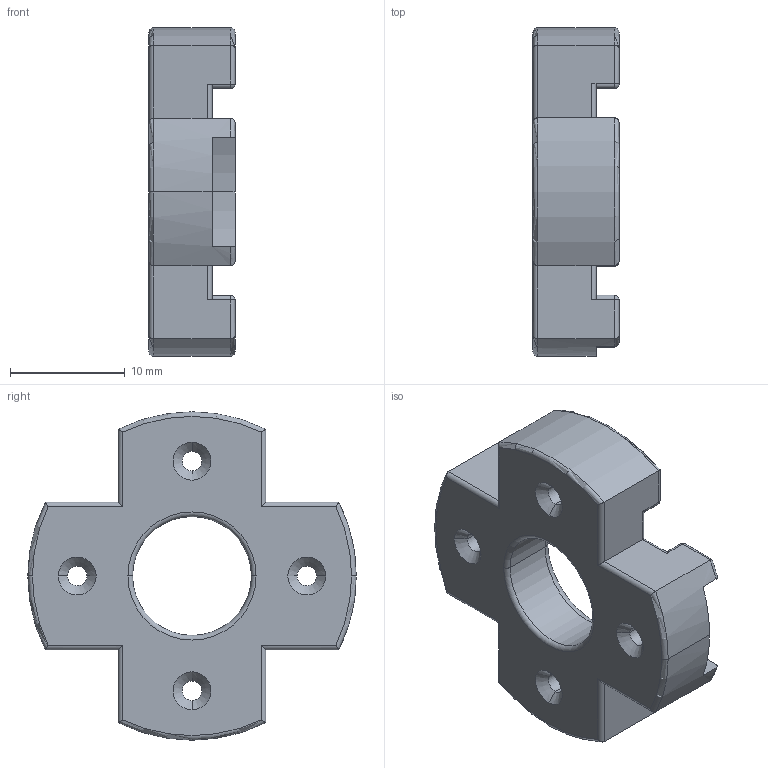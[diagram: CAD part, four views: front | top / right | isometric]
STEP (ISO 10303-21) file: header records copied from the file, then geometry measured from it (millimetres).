
FILE_DESCRIPTION(/* description */ ('AP-214'),/* implementation_level */ '2;1');
FILE_NAME(/* name */ 'center-gamepad.stp',/* time_stamp */ '2025-10-16T17:42:22+01:00',/* author */ (''),/* organization */ (''),/* preprocessor_version */ '0',/* originating_system */ '',/* authorisation */ '');
FILE_SCHEMA(('AUTOMOTIVE_DESIGN'));
Length unit declared in the file: millimetre
Products named in the file (2): center-gamepad
Assembly tree (1 placements, depth 2):
  center-gamepad
    (unnamed)
Bounding box: 7.5 x 28.6 x 28.6 mm (x, y, z)
Volume: 2649.6 mm3; surface area: 2003.8 mm2
Topology: 1 solids, 1 shells, 178 faces, 415 edges, 231 vertices
Faces by surface type: cylinder 76, plane 54, torus 32, cone 8, sphere 8
Entity records: 5251 total; most frequent: CARTESIAN_POINT 1156, DIRECTION 903, ORIENTED_EDGE 814, EDGE_CURVE 407, AXIS2_PLACEMENT_3D 348, VERTEX_POINT 231, LINE 207, VECTOR 207
